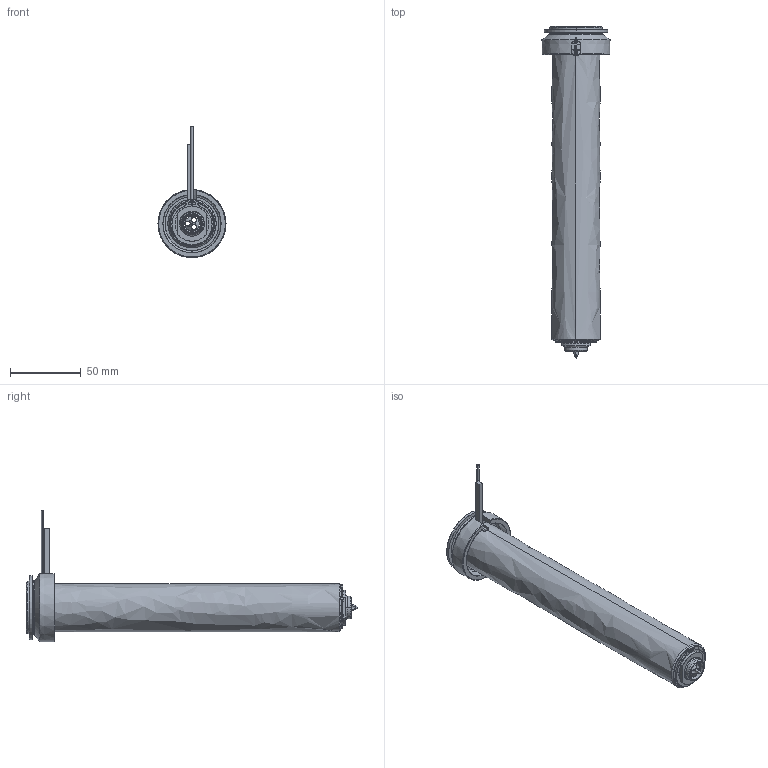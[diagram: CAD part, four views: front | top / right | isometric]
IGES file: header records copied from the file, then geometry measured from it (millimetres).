
Start section: SolidWorks IGES file using analytic representation for surfaces
Global section: file name: C:\Documents and Settings\ws-20\Desktop\TEM\UGEP5005-M-A-0 [Øf-0.80 ØC-12].IGS; native system: SolidWorks 2012; preprocessor: SolidWorks 2012; author: ws-20; date: 120426.095741; units: millimetre
Bounding box: 48 x 234.05 x 92.62 mm (x, y, z)
Surface area: 86804.2 mm2 (no closed solid volume)
Topology: 0 solids, 0 shells, 124 faces, 2306 edges, 2306 vertices
Faces by surface type: revolution 75, bspline 49
